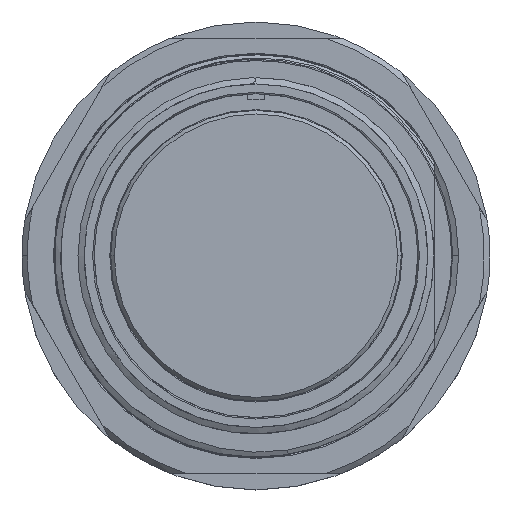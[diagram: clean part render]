
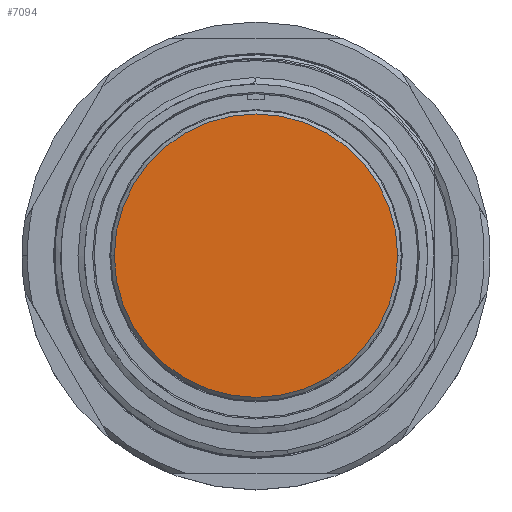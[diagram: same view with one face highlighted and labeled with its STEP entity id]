
A CAD part, top view. The second image highlights one B-rep face of the part: STEP entity #7094.
In plain terms, the highlighted planar face has unit normal (0, 0, 1).
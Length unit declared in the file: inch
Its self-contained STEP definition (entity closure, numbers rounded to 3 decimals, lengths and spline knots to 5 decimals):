
#1367 = PLANE ( 'NONE',  #8690 ) ;
#1468 = VERTEX_POINT ( 'NONE', #15501 ) ;
#2714 = CARTESIAN_POINT ( 'NONE',  ( 0., 0., -0.018 ) ) ;
#2870 = DIRECTION ( 'NONE',  ( 1., 0., 0. ) ) ;
#4044 = CARTESIAN_POINT ( 'NONE',  ( 0., 0., -0.018 ) ) ;
#4354 = EDGE_LOOP ( 'NONE', ( #8666, #8961 ) ) ;
#5011 = FACE_OUTER_BOUND ( 'NONE', #4354, .T. ) ;
#5493 = DIRECTION ( 'NONE',  ( 0., 0., 1. ) ) ;
#6542 = CARTESIAN_POINT ( 'NONE',  ( 0.792, 0., -0.018 ) ) ;
#7094 = ADVANCED_FACE ( 'NONE', ( #5011 ), #1367, .T. ) ;
#7513 = DIRECTION ( 'NONE',  ( 1., 0., 0. ) ) ;
#7961 = DIRECTION ( 'NONE',  ( 0., 0., 1. ) ) ;
#8666 = ORIENTED_EDGE ( 'NONE', *, *, #11232, .T. ) ;
#8690 = AXIS2_PLACEMENT_3D ( 'NONE', #13663, #12530, #7513 ) ;
#8954 = CIRCLE ( 'NONE', #10499, 0.792 ) ;
#8961 = ORIENTED_EDGE ( 'NONE', *, *, #10051, .T. ) ;
#9948 = VERTEX_POINT ( 'NONE', #6542 ) ;
#10051 = EDGE_CURVE ( 'NONE', #9948, #1468, #10261, .T. ) ;
#10261 = CIRCLE ( 'NONE', #14393, 0.792 ) ;
#10499 = AXIS2_PLACEMENT_3D ( 'NONE', #2714, #7961, #2870 ) ;
#10504 = DIRECTION ( 'NONE',  ( 1., 0., 0. ) ) ;
#11232 = EDGE_CURVE ( 'NONE', #1468, #9948, #8954, .T. ) ;
#12530 = DIRECTION ( 'NONE',  ( 0., 0., 1. ) ) ;
#13663 = CARTESIAN_POINT ( 'NONE',  ( 0., 0., -0.018 ) ) ;
#14393 = AXIS2_PLACEMENT_3D ( 'NONE', #4044, #5493, #10504 ) ;
#15501 = CARTESIAN_POINT ( 'NONE',  ( -0.792, 0., -0.018 ) ) ;
